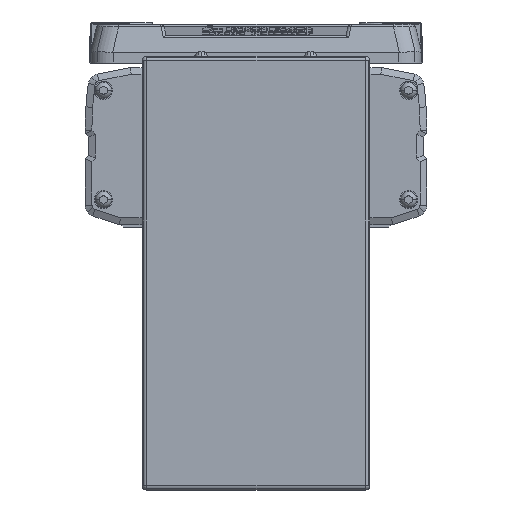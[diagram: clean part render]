
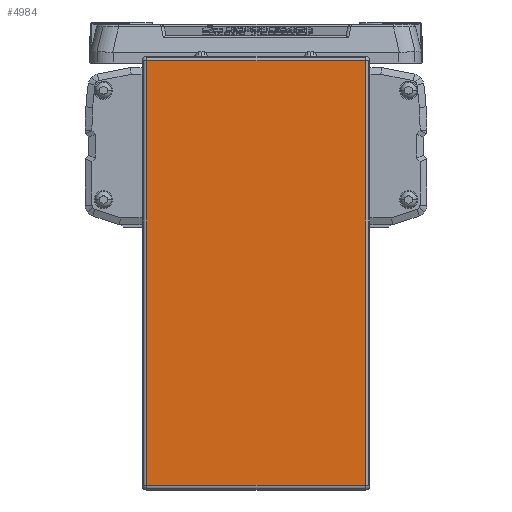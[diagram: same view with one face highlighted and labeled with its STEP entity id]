
A CAD part, left-side view. The second image highlights one B-rep face of the part: STEP entity #4984.
In plain terms, the highlighted planar face has unit normal (-1, 0, 0).
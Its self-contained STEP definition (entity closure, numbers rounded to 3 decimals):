
#4984=ADVANCED_FACE('',(#10586),#10587,.T.);
#10586=FACE_OUTER_BOUND('',#17892,.T.);
#10587=PLANE('',#17893);
#17892=EDGE_LOOP('',(#32411,#32412,#32413,#32414));
#17893=AXIS2_PLACEMENT_3D('',#32415,#32416,#32417);
#32411=ORIENTED_EDGE('',*,*,#43183,.F.);
#32412=ORIENTED_EDGE('',*,*,#42429,.F.);
#32413=ORIENTED_EDGE('',*,*,#43679,.F.);
#32414=ORIENTED_EDGE('',*,*,#37917,.F.);
#32415=CARTESIAN_POINT('',(-45.,0.,-64.2));
#32416=DIRECTION('',(-1.0,0.,0.));
#32417=DIRECTION('',(0.,1.0,0.));
#37917=EDGE_CURVE('',#44894,#44896,#44897,.T.);
#42429=EDGE_CURVE('',#51041,#49526,#52143,.T.);
#43183=EDGE_CURVE('',#49526,#44894,#53123,.T.);
#43679=EDGE_CURVE('',#44896,#51041,#53727,.T.);
#44894=VERTEX_POINT('',#55128);
#44896=VERTEX_POINT('',#55130);
#44897=LINE('',#55131,#55132);
#49526=VERTEX_POINT('',#61483);
#51041=VERTEX_POINT('',#63577);
#52143=LINE('',#65082,#65083);
#53123=LINE('',#66584,#66585);
#53727=LINE('',#67408,#67409);
#55128=CARTESIAN_POINT('',(-45.,-48.,29.));
#55130=CARTESIAN_POINT('',(-45.,-48.,-157.4));
#55131=CARTESIAN_POINT('',(-45.,-48.,-64.2));
#55132=VECTOR('',#68892,10.0);
#61483=CARTESIAN_POINT('',(-45.,48.,29.));
#63577=CARTESIAN_POINT('',(-45.,48.,-157.4));
#65082=CARTESIAN_POINT('',(-45.,48.,-64.2));
#65083=VECTOR('',#75137,10.0);
#66584=CARTESIAN_POINT('',(-45.,0.,29.));
#66585=VECTOR('',#76056,10.0);
#67408=CARTESIAN_POINT('',(-45.,0.,-157.4));
#67409=VECTOR('',#76571,10.0);
#68892=DIRECTION('',(0.,0.,-1.0));
#75137=DIRECTION('',(0.,0.,1.0));
#76056=DIRECTION('',(0.0,-1.0,0.));
#76571=DIRECTION('',(0.0,1.0,0.));
